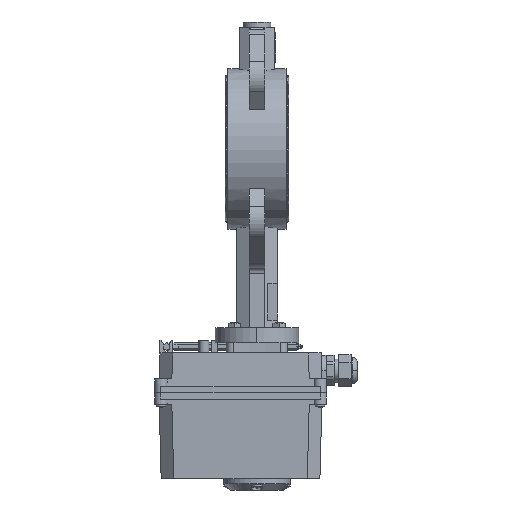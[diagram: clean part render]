
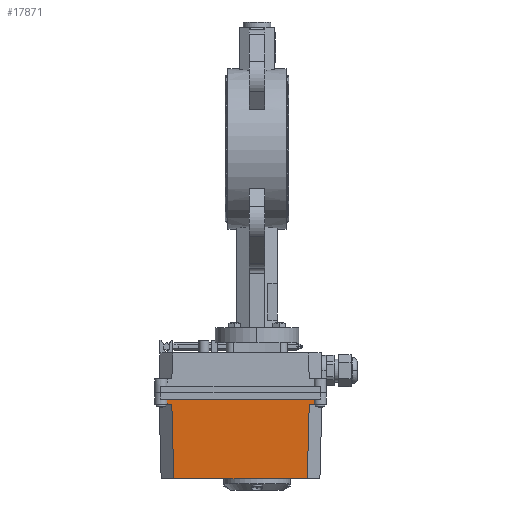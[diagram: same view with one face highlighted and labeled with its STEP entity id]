
A CAD part, left-side view. The second image highlights one B-rep face of the part: STEP entity #17871.
In plain terms, the highlighted planar face has unit normal (-1, 0, -0.026) as drawn and (0, 0.026, -1) by its records, which use the part's own axes.
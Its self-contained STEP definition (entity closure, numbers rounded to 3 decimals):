
#17048=CARTESIAN_POINT('',(58.199,9.,-42.895));
#17049=CARTESIAN_POINT('',(58.209,7.667,
-42.93));
#17050=CARTESIAN_POINT('',(58.219,6.333,
-42.965));
#17051=CARTESIAN_POINT('',(58.23,5.,-43.));
#17063=DIRECTION('',(1.,0.,0.));
#17064=VECTOR('',#17063,116.461);
#17065=CARTESIAN_POINT('',(-58.23,5.,-43.));
#17066=LINE('',#17065,#17064);
#17067=DIRECTION('',(-0.026,0.999,0.026));
#17068=VECTOR('',#17067,59.04);
#17069=CARTESIAN_POINT('',(54.392,9.,-42.895));
#17070=LINE('',#17069,#17068);
#17071=DIRECTION('',(0.026,0.999,0.026));
#17072=VECTOR('',#17071,59.04);
#17073=CARTESIAN_POINT('',(-54.392,9.,-42.895));
#17074=LINE('',#17073,#17072);
#17201=DIRECTION('',(1.,0.,0.));
#17202=VECTOR('',#17201,3.807);
#17203=CARTESIAN_POINT('',(54.392,9.,-42.895));
#17204=LINE('',#17203,#17202);
#17205=DIRECTION('',(1.,0.,0.));
#17206=VECTOR('',#17205,3.807);
#17207=CARTESIAN_POINT('',(-58.199,9.,-42.895));
#17208=LINE('',#17207,#17206);
#17230=CARTESIAN_POINT('',(-58.23,5.,-43.));
#17231=CARTESIAN_POINT('',(-58.219,6.333,
-42.965));
#17232=CARTESIAN_POINT('',(-58.209,7.667,
-42.93));
#17233=CARTESIAN_POINT('',(-58.199,9.,-42.895));
#17298=DIRECTION('',(-1.,0.,0.));
#17299=VECTOR('',#17298,105.694);
#17300=CARTESIAN_POINT('',(52.847,68.,-41.35));
#17301=LINE('',#17300,#17299);
#17755=CARTESIAN_POINT('',(52.847,68.,-41.35));
#17757=VERTEX_POINT('',#17755);
#17758=CARTESIAN_POINT('',(-52.847,68.,-41.35));
#17760=VERTEX_POINT('',#17758);
#17770=VERTEX_POINT('',#17048);
#17771=VERTEX_POINT('',#17051);
#17784=VERTEX_POINT('',#17230);
#17785=VERTEX_POINT('',#17233);
#17787=CARTESIAN_POINT('',(54.392,9.,-42.895));
#17789=VERTEX_POINT('',#17787);
#17790=CARTESIAN_POINT('',(-54.392,9.,-42.895));
#17792=VERTEX_POINT('',#17790);
#17849=CARTESIAN_POINT('',(0.,36.5,-42.175));
#17850=DIRECTION('',(0.,0.026,-1.));
#17851=DIRECTION('',(0.,-1.,-0.026));
#17852=AXIS2_PLACEMENT_3D('',#17849,#17850,#17851);
#17853=PLANE('',#17852);
#17855=ORIENTED_EDGE('',*,*,#17854,.T.);
#17856=ORIENTED_EDGE('',*,*,#17831,.F.);
#17858=ORIENTED_EDGE('',*,*,#17857,.F.);
#17860=ORIENTED_EDGE('',*,*,#17859,.T.);
#17862=ORIENTED_EDGE('',*,*,#17861,.T.);
#17864=ORIENTED_EDGE('',*,*,#17863,.F.);
#17866=ORIENTED_EDGE('',*,*,#17865,.F.);
#17868=ORIENTED_EDGE('',*,*,#17867,.F.);
#17869=EDGE_LOOP('',(#17855,#17856,#17858,#17860,#17862,#17864,#17866,#17868));
#17870=FACE_OUTER_BOUND('',#17869,.F.);
#17871=ADVANCED_FACE('',(#17870),#17853,.T.);
#17052=B_SPLINE_CURVE_WITH_KNOTS('',3,(#17048,#17049,#17050,#17051),
.UNSPECIFIED.,.F.,.F.,(4,4),(0.,1.),.UNSPECIFIED.);
#17234=B_SPLINE_CURVE_WITH_KNOTS('',3,(#17230,#17231,#17232,#17233),
.UNSPECIFIED.,.F.,.F.,(4,4),(0.,1.),.UNSPECIFIED.);
#17831=EDGE_CURVE('',#17770,#17771,#17052,.T.);
#17854=EDGE_CURVE('',#17784,#17771,#17066,.T.);
#17857=EDGE_CURVE('',#17789,#17770,#17204,.T.);
#17859=EDGE_CURVE('',#17789,#17757,#17070,.T.);
#17861=EDGE_CURVE('',#17757,#17760,#17301,.T.);
#17863=EDGE_CURVE('',#17792,#17760,#17074,.T.);
#17865=EDGE_CURVE('',#17785,#17792,#17208,.T.);
#17867=EDGE_CURVE('',#17784,#17785,#17234,.T.);
